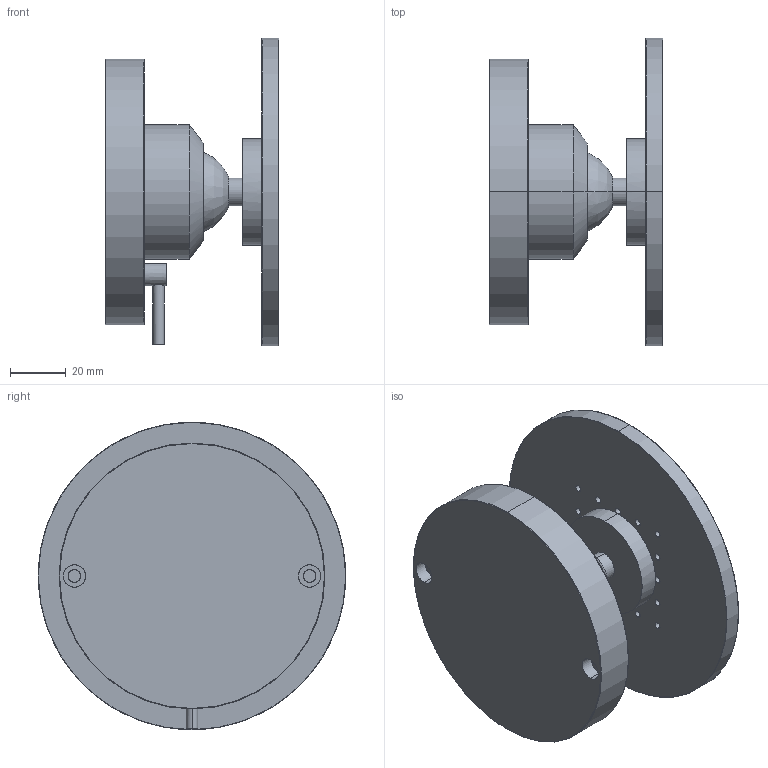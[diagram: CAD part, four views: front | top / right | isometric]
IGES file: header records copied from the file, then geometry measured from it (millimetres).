
Start section: SolidWorks IGES file using analytic representation for surfaces
Global section: file name: 2HC:\Users\dubin\Desktop\0101\⑩\PR-SD92.IGS; native system: SolidWorks 2017; preprocessor: SolidWorks 2017; author: PDV; date: 230101.100208; units: millimetre
Bounding box: 62 x 110 x 110 mm (x, y, z)
Surface area: 45109.6 mm2 (no closed solid volume)
Topology: 0 solids, 0 shells, 113 faces, 2458 edges, 2458 vertices
Faces by surface type: revolution 88, bspline 25
